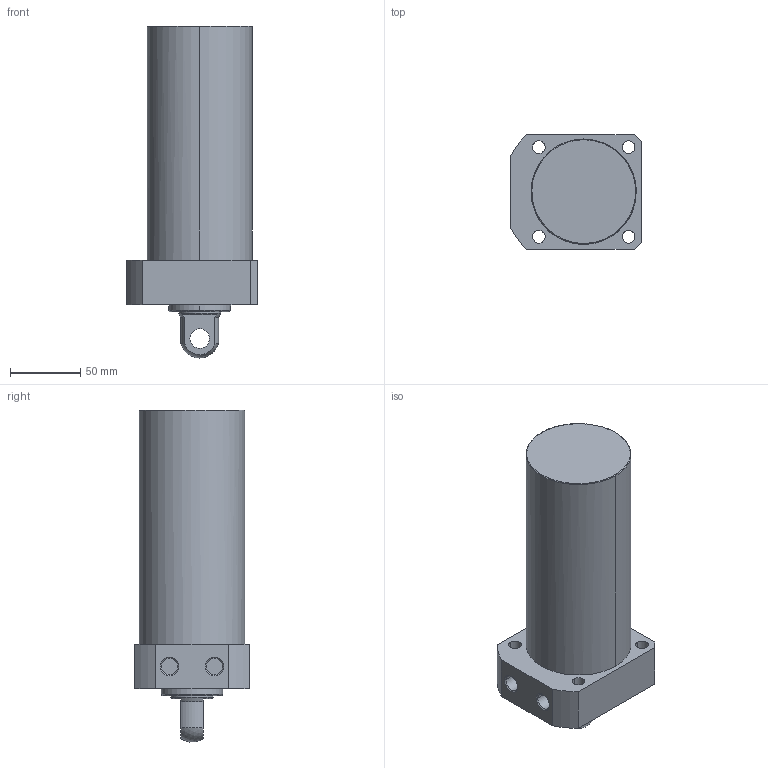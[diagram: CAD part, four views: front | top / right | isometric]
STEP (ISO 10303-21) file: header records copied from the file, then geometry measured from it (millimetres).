
FILE_DESCRIPTION((' '),'2;1');
FILE_NAME( 'TLLR-075CP-135.STEP.stp', '2025-10-24T16:35:16', (' '), ('--- Datakit www.datakit.com---'), ' Datakit CrossCadWare V2024.1 Dec 21 2023', 'Mastercam 2025', ' ');
FILE_SCHEMA(('AUTOMOTIVE_DESIGN { 1 0 10303 214 1 1 1 1 }'));
Length unit declared in the file: millimetre
Products named in the file (1): TLLR-075CP-135
Bounding box: 93 x 82 x 236.9 mm (x, y, z)
Volume: 981233.5 mm3; surface area: 72587 mm2
Topology: 1 solids, 1 shells, 57 faces, 164 edges, 116 vertices
Faces by surface type: cylinder 28, plane 18, cone 8, torus 2, sphere 1
Entity records: 2006 total; most frequent: DIRECTION 378, CARTESIAN_POINT 350, ORIENTED_EDGE 328, EDGE_CURVE 164, AXIS2_PLACEMENT_3D 160, VERTEX_POINT 116, CIRCLE 102, EDGE_LOOP 74
